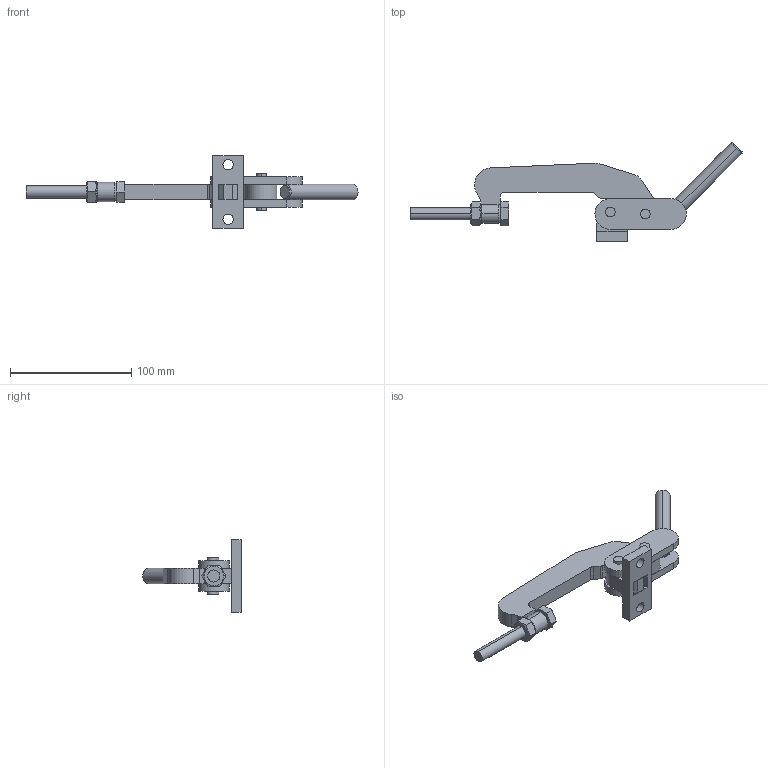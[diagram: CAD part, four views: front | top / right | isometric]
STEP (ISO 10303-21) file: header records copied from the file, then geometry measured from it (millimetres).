
FILE_DESCRIPTION (( 'STEP AP203' ), '1' );
FILE_NAME ('KF-035 60.STEP', '2011-06-29T13:24:59', ( 'Usuario' ), ( '' ), 'SwSTEP 2.0', 'SolidWorks 2011', '' );
FILE_SCHEMA (( 'CONFIG_CONTROL_DESIGN' ));
Length unit declared in the file: millimetre
Products named in the file (10): KF-035 60; 06.50044; 11.50003; 12.50004; 05.20024; 01.20013; 03.10010; 15.10048; 15.10049; 02.10023
Assembly tree (11 placements, depth 2):
  KF-035 60
    12.50004
    15.10048  x2
    05.20024
    02.10023
    01.20013
    15.10049
    06.50044  x2
    03.10010
    11.50003
Bounding box: 274.06 x 81.23 x 60 mm (x, y, z)
Volume: 111383.3 mm3; surface area: 40742.6 mm2
Topology: 11 solids, 11 shells, 129 faces, 308 edges, 202 vertices
Faces by surface type: plane 67, cylinder 46, cone 16
Entity records: 4601 total; most frequent: CARTESIAN_POINT 707, DIRECTION 613, ORIENTED_EDGE 550, EDGE_CURVE 275, AXIS2_PLACEMENT_3D 222, VERTEX_POINT 180, VECTOR 169, LINE 169
